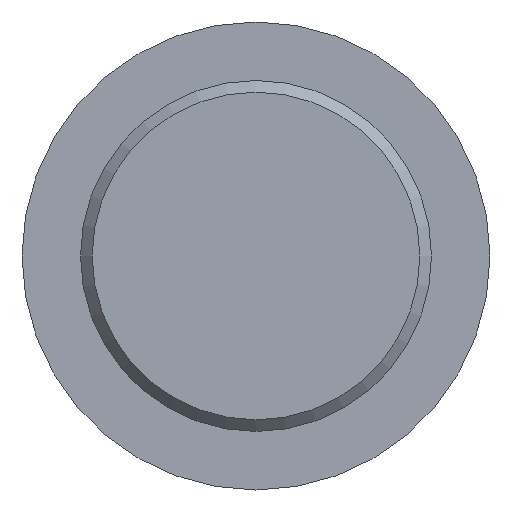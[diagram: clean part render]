
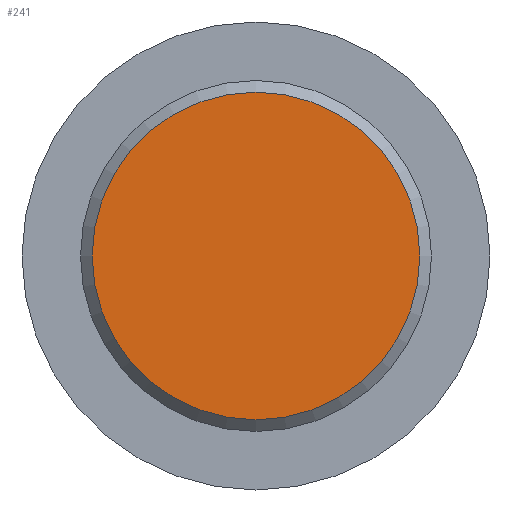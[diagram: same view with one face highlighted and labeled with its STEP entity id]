
A CAD part, front view. The second image highlights one B-rep face of the part: STEP entity #241.
In plain terms, the highlighted planar face has unit normal (0, -1, 0).
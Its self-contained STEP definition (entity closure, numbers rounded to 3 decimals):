
#26=PLANE('',#279);
#34=FACE_OUTER_BOUND('',#49,.T.);
#49=EDGE_LOOP('',(#175));
#86=CIRCLE('',#278,7.);
#112=VERTEX_POINT('',#414);
#139=EDGE_CURVE('',#112,#112,#86,.T.);
#175=ORIENTED_EDGE('',*,*,#139,.F.);
#241=ADVANCED_FACE('',(#34),#26,.T.);
#278=AXIS2_PLACEMENT_3D('',#416,#325,#326);
#279=AXIS2_PLACEMENT_3D('',#417,#327,#328);
#325=DIRECTION('center_axis',(0.,1.,0.));
#326=DIRECTION('ref_axis',(0.,0.,-1.));
#327=DIRECTION('center_axis',(0.,-1.,0.));
#328=DIRECTION('ref_axis',(0.,0.,-1.));
#414=CARTESIAN_POINT('',(0.,-450.,7.));
#416=CARTESIAN_POINT('Origin',(0.,-450.,0.));
#417=CARTESIAN_POINT('Origin',(0.,-450.,7.5));
